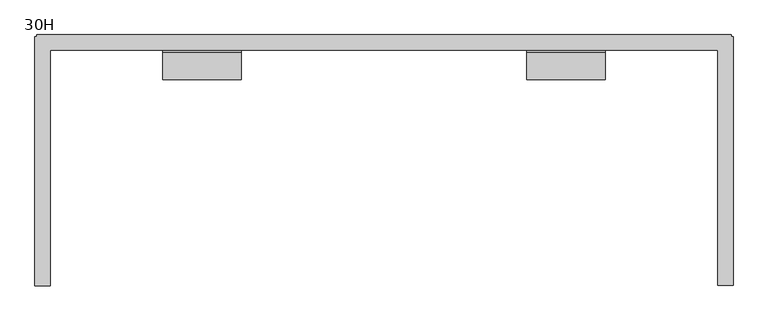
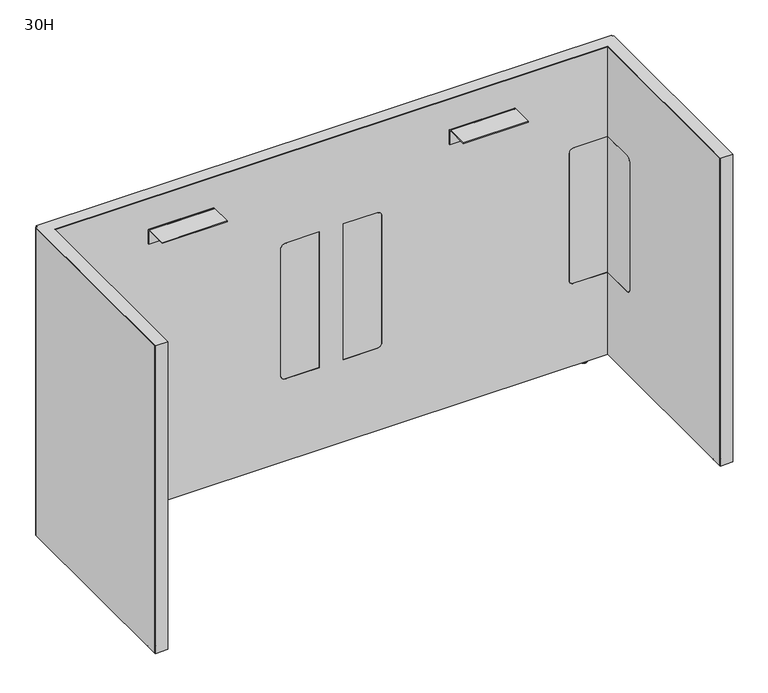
"""IFC4 building model written with IfcOpenShell, lengths in millimetres: furniture geometry, Steelcase - Answer Solution - Boundary Screen - L Return - Split : 30H."""

from ifc_helpers import new_model, si_unit, point, frame, frame_2d, origin, place, context, project, spatial, polyline, circle_curve, ellipse_curve, trimmed, segment, composite_curve, outline, extrude, faceted_brep, source, transform, mapped, element, save
from ifc_brep_helpers import plane_surface, cylinder_surface, revolved_surface, advanced_brep


def furniture_30h_5d8eaa44(model_context):
    return source(origin(), model_context, "Body", "SolidModel", [
        extrude(outline(composite_curve([segment(polyline([(-109.3501471, 549.6162029), (-29.0550397, 549.6162029), (-29.0550397, 213.7762137), (-109.3501471, 213.7762137)]), True, "CONTINUOUS"), segment(trimmed(circle_curve(frame_2d((-109.3501471, 223.9362137)), 10.16), [point((-109.3501471, 213.7762137))], [point((-119.5101471, 223.9362137))], False, "CARTESIAN"), True, "CONTINUOUS"), segment(polyline([(-119.5101471, 223.9362137), (-119.5101471, 539.4562029)]), True, "CONTINUOUS"), segment(trimmed(circle_curve(frame_2d((-109.3501471, 539.4562029)), 10.16), [point((-119.5101471, 539.4562029))], [point((-109.3501471, 549.6162029))], False, "CARTESIAN"), True, "CONTINUOUS")], self_intersect=False)), frame((-418.5209652, 0.0, 0.0), z_axis=(1.0, 0.0, 0.0), x_axis=(0.0, 1.0, 0.0)), (0.0, 0.0, 1.0), 0.6401544),
        extrude(outline(composite_curve([segment(polyline([(-109.3501471, 549.6162029), (-29.0550397, 549.6162029), (-29.0550397, 213.7762137), (-109.3501471, 213.7762137)]), True, "CONTINUOUS"), segment(trimmed(circle_curve(frame_2d((-109.3501471, 223.9362137)), 10.16), [point((-109.3501471, 213.7762137))], [point((-119.5101471, 223.9362137))], False, "CARTESIAN"), True, "CONTINUOUS"), segment(polyline([(-119.5101471, 223.9362137), (-119.5101471, 539.4562029)]), True, "CONTINUOUS"), segment(trimmed(circle_curve(frame_2d((-109.3501471, 539.4562029)), 10.16), [point((-119.5101471, 539.4562029))], [point((-109.3501471, 549.6162029))], False, "CARTESIAN"), True, "CONTINUOUS")], self_intersect=False)), frame((877.5191891, 0.0, 0.0), z_axis=(1.0, 0.0, 0.0), x_axis=(0.0, 1.0, 0.0)), (0.0, 0.0, 1.0), 0.6401544),
        advanced_brep(
        [(892.3672074, -448.0136072, 0.0), (899.3216144, -448.0136072, 0.0), (885.4128003, -448.0136072, 0.0), (900.7762685, -448.0136072, 1.2700001), (883.9581463, -448.0136072, 1.2700001), (900.7762685, -448.0136072, 2.9673238), (883.9581463, -448.0136072, 2.9673238), (901.7427877, -448.0136072, 2.9673238), (882.991627, -448.0136072, 2.9673238), (901.7427877, -448.0136072, 9.9059849), (882.991627, -448.0136072, 9.9059849), (892.3672074, -448.0136072, 9.9059849)],
        [
            (0, 1),
            (1, 2, circle_curve(frame((892.3672074, -448.0136072, 0.0), z_axis=(0.0, 0.0, -1.0), x_axis=(1.0, 0.0, 0.0)), 6.9544071)),
            (2, 0),
            (2, 1, circle_curve(frame((892.3672074, -448.0136072, 0.0), z_axis=(0.0, 0.0, -1.0), x_axis=(1.0, 0.0, 0.0)), 6.9544071)),
            (1, 3, circle_curve(frame((899.4945484, -448.0136072, 1.2700001), z_axis=(0.0, -1.0, 0.0), x_axis=(0.0, 0.0, 1.0)), 1.2817201)),
            (3, 4, circle_curve(frame((892.3672074, -448.0136072, 1.2700001), z_axis=(0.0, 0.0, -1.0), x_axis=(1.0, 0.0, 0.0)), 8.4090611)),
            (4, 2, circle_curve(frame((885.2398663, -448.0136072, 1.2700001), z_axis=(0.0, -1.0, 0.0), x_axis=(0.0, 0.0, 1.0)), 1.2817201)),
            (4, 3, circle_curve(frame((892.3672074, -448.0136072, 1.2700001), z_axis=(0.0, 0.0, -1.0), x_axis=(1.0, 0.0, 0.0)), 8.4090611)),
            (3, 5),
            (5, 6, circle_curve(frame((892.3672074, -448.0136072, 2.9673238), z_axis=(0.0, 0.0, -1.0), x_axis=(1.0, 0.0, 0.0)), 8.4090611)),
            (6, 4),
            (6, 5, circle_curve(frame((892.3672074, -448.0136072, 2.9673238), z_axis=(0.0, 0.0, -1.0), x_axis=(1.0, 0.0, 0.0)), 8.4090611)),
            (5, 7),
            (7, 8, circle_curve(frame((892.3672074, -448.0136072, 2.9673238), z_axis=(0.0, 0.0, -1.0), x_axis=(1.0, 0.0, 0.0)), 9.3755804)),
            (8, 6),
            (8, 7, circle_curve(frame((892.3672074, -448.0136072, 2.9673238), z_axis=(0.0, 0.0, -1.0), x_axis=(1.0, 0.0, 0.0)), 9.3755804)),
            (7, 9),
            (9, 10, circle_curve(frame((892.3672074, -448.0136072, 9.9059849), z_axis=(0.0, 0.0, -1.0), x_axis=(1.0, 0.0, 0.0)), 9.3755804)),
            (10, 8),
            (10, 9, circle_curve(frame((892.3672074, -448.0136072, 9.9059849), z_axis=(0.0, 0.0, -1.0), x_axis=(1.0, 0.0, 0.0)), 9.3755804)),
            (9, 11),
            (11, 10),
        ],
        [
            plane_surface(frame((892.3672074, -448.0136072, 0.0), z_axis=(0.0, 0.0, -1.0), x_axis=(1.0, 0.0, 0.0))),
            revolved_surface(trimmed(ellipse_curve(frame((899.4945484, -448.0136072, 1.2700001), z_axis=(0.0, 1.0, 0.0), x_axis=(0.0, 0.0, 1.0)), 1.2817201, 1.2817201), [point((900.7762685, -448.0136072, 1.2700001))], [point((899.3216144, -448.0136072, 0.0))], True, "CARTESIAN"), (892.3672074, -448.0136072, 9.9059849), (0.0, 0.0, -1.0)),
            cylinder_surface(frame((892.3672074, -448.0136072, 9.9059849), z_axis=(0.0, 0.0, -1.0), x_axis=(1.0, 0.0, 0.0)), 8.4090611),
            plane_surface(frame((892.3672074, -448.0136072, 2.9673238), z_axis=(0.0, 0.0, -1.0), x_axis=(1.0, 0.0, 0.0))),
            cylinder_surface(frame((892.3672074, -448.0136072, 9.9059849), z_axis=(0.0, 0.0, -1.0), x_axis=(1.0, 0.0, 0.0)), 9.3755804),
            plane_surface(frame((892.3672074, -448.0136072, 9.9059849), z_axis=(0.0, 0.0, 1.0), x_axis=(1.0, 0.0, 0.0))),
        ],
        [
            (0, [[1, 2, 3]]),
            (0, [[-3, 4, -1]]),
            (1, [[-2, 5, 6, 7]]),
            (1, [[-4, -7, 8, -5]]),
            (2, [[-6, 9, 10, 11]]),
            (2, [[-8, -11, 12, -9]]),
            (3, [[-10, 13, 14, 15]]),
            (3, [[-12, -15, 16, -13]]),
            (4, [[-14, 17, 18, 19]]),
            (4, [[-16, -19, 20, -17]]),
            (5, [[-18, 21, 22]]),
            (5, [[-20, -22, -21]]),
        ],
    ),
        advanced_brep(
        [(-425.774422, -449.0042444, 0.0), (-439.6832361, -449.0042444, 0.0), (-432.7288291, -449.0042444, 0.0), (-424.319768, -449.0042444, 1.2700001), (-441.1378902, -449.0042444, 1.2700001), (-424.319768, -449.0042444, 2.9673238), (-441.1378902, -449.0042444, 2.9673238), (-423.3532487, -449.0042444, 2.9673238), (-442.1044095, -449.0042444, 2.9673238), (-423.3532487, -449.0042444, 9.9059849), (-442.1044095, -449.0042444, 9.9059849), (-432.7288291, -449.0042444, 9.9059849)],
        [
            (0, 1, circle_curve(frame((-432.7288291, -449.0042444, 0.0), z_axis=(0.0, 0.0, -1.0), x_axis=(-1.0, 0.0, 0.0)), 6.9544071)),
            (1, 2),
            (2, 0),
            (1, 0, circle_curve(frame((-432.7288291, -449.0042444, 0.0), z_axis=(0.0, 0.0, -1.0), x_axis=(-1.0, 0.0, 0.0)), 6.9544071)),
            (3, 4, circle_curve(frame((-432.7288291, -449.0042444, 1.2700001), z_axis=(0.0, 0.0, -1.0), x_axis=(-1.0, 0.0, 0.0)), 8.4090611)),
            (4, 1, circle_curve(frame((-439.8561701, -449.0042444, 1.2700001), z_axis=(0.0, -1.0, 0.0), x_axis=(0.0, 0.0, 1.0)), 1.2817201)),
            (0, 3, circle_curve(frame((-425.6014881, -449.0042444, 1.2700001), z_axis=(0.0, -1.0, 0.0), x_axis=(0.0, 0.0, 1.0)), 1.2817201)),
            (4, 3, circle_curve(frame((-432.7288291, -449.0042444, 1.2700001), z_axis=(0.0, 0.0, -1.0), x_axis=(-1.0, 0.0, 0.0)), 8.4090611)),
            (5, 6, circle_curve(frame((-432.7288291, -449.0042444, 2.9673238), z_axis=(0.0, 0.0, -1.0), x_axis=(-1.0, 0.0, 0.0)), 8.4090611)),
            (6, 4),
            (3, 5),
            (6, 5, circle_curve(frame((-432.7288291, -449.0042444, 2.9673238), z_axis=(0.0, 0.0, -1.0), x_axis=(-1.0, 0.0, 0.0)), 8.4090611)),
            (7, 8, circle_curve(frame((-432.7288291, -449.0042444, 2.9673238), z_axis=(0.0, 0.0, -1.0), x_axis=(-1.0, 0.0, 0.0)), 9.3755804)),
            (8, 6),
            (5, 7),
            (8, 7, circle_curve(frame((-432.7288291, -449.0042444, 2.9673238), z_axis=(0.0, 0.0, -1.0), x_axis=(-1.0, 0.0, 0.0)), 9.3755804)),
            (9, 10, circle_curve(frame((-432.7288291, -449.0042444, 9.9059849), z_axis=(0.0, 0.0, -1.0), x_axis=(-1.0, 0.0, 0.0)), 9.3755804)),
            (10, 8),
            (7, 9),
            (10, 9, circle_curve(frame((-432.7288291, -449.0042444, 9.9059849), z_axis=(0.0, 0.0, -1.0), x_axis=(-1.0, 0.0, 0.0)), 9.3755804)),
            (11, 10),
            (9, 11),
        ],
        [
            plane_surface(frame((-432.7288291, -449.0042444, 0.0), z_axis=(0.0, 0.0, -1.0), x_axis=(-1.0, 0.0, 0.0))),
            revolved_surface(trimmed(ellipse_curve(frame((-439.8561701, -449.0042444, 1.2700001), z_axis=(0.0, 1.0, 0.0), x_axis=(0.0, 0.0, 1.0)), 1.2817201, 1.2817201), [point((-439.6832361, -449.0042444, 0.0))], [point((-441.1378902, -449.0042444, 1.2700001))], True, "CARTESIAN"), (-432.7288291, -449.0042444, 9.9059849), (0.0, 0.0, 1.0)),
            cylinder_surface(frame((-432.7288291, -449.0042444, 9.9059849), z_axis=(0.0, 0.0, 1.0), x_axis=(-1.0, 0.0, 0.0)), 8.4090611),
            plane_surface(frame((-432.7288291, -449.0042444, 2.9673238), z_axis=(0.0, 0.0, -1.0), x_axis=(-1.0, 0.0, 0.0))),
            cylinder_surface(frame((-432.7288291, -449.0042444, 9.9059849), z_axis=(0.0, 0.0, 1.0), x_axis=(-1.0, 0.0, 0.0)), 9.3755804),
            plane_surface(frame((-432.7288291, -449.0042444, 9.9059849), z_axis=(0.0, 0.0, 1.0), x_axis=(-1.0, 0.0, 0.0))),
        ],
        [
            (0, [[1, 2, 3]]),
            (0, [[4, -3, -2]]),
            (1, [[5, 6, -1, 7]]),
            (1, [[8, -7, -4, -6]]),
            (2, [[9, 10, -5, 11]]),
            (2, [[12, -11, -8, -10]]),
            (3, [[13, 14, -9, 15]]),
            (3, [[16, -15, -12, -14]]),
            (4, [[17, 18, -13, 19]]),
            (4, [[20, -19, -16, -18]]),
            (5, [[21, -17, 22]]),
            (5, [[-22, -20, -21]]),
        ],
    ),
        faceted_brep([(903.9531179, 0.0, 772.922), (903.9531179, 0.0, 9.9059849), (902.9621491, 0.0, 9.9059849), (902.9621491, 0.0, 771.942118), (-443.3237709, 0.0, 771.942118), (-443.3237709, 0.0, 9.9059849), (-444.3147397, 0.0, 9.9059849), (-444.3147397, 0.0, 772.922), (-444.3147397, -29.6898332, 9.9059849), (-443.3237709, -29.6898332, 9.9059849), (-443.3237709, -29.6898332, 771.942118), (-444.3147397, -29.6898332, 771.942118), (902.9621491, -29.6898332, 771.942118), (902.9621491, -29.6898332, 9.9059849), (903.9531179, -29.6898332, 9.9059849), (903.9531179, -29.6898332, 771.942118), (-417.8808109, -29.6898332, 772.922), (-417.8808109, -29.6898332, 771.942118), (877.5191891, -29.6898332, 771.942118), (877.5191891, -29.6898332, 772.922), (903.9531179, -3.2625916, 772.922), (903.9531179, -3.2625916, 9.9059849), (903.9531179, -4.252647, 9.9059849), (903.9531179, -4.252647, 771.942118), (907.2152256, -3.2625916, 9.9059849), (907.2152256, -4.252647, 9.9059849), (902.9621491, -4.252647, 9.9059849), (877.5191891, -4.252647, 9.9059849), (877.5191891, -3.2625916, 9.9059849), (902.9621491, -3.2625916, 9.9059849), (-444.3147397, -3.2625916, 9.9059849), (-444.3147397, -3.2625916, 772.922), (-444.3147397, -4.252647, 771.942118), (-444.3147397, -4.252647, 9.9059849), (-447.5768473, -3.2625916, 772.922), (-447.5768473, -487.8804704, 772.922), (-417.8808109, -487.8804704, 772.922), (877.5191891, -486.8898332, 772.922), (907.2152256, -486.8898332, 772.922), (907.2152256, -3.2625916, 772.922), (902.9621491, -3.2625916, 771.942118), (902.9621491, -4.252647, 771.942118), (877.5191891, -3.2625916, 771.942118), (877.5191891, -4.252647, 771.942118), (907.2152256, -4.252647, 771.942118), (907.2152256, -485.899196, 771.942118), (877.5191891, -485.899196, 771.942118), (-417.8808109, -486.8898332, 771.942118), (-447.5768473, -486.8898332, 771.942118), (-447.5768473, -4.252647, 771.942118), (-443.3237709, -4.252647, 771.942118), (-417.8808109, -4.252647, 771.942118), (-417.8808109, -3.2625916, 771.942118), (-443.3237709, -3.2625916, 771.942118), (-443.3237709, -3.2625916, 9.9059849), (-443.3237709, -4.252647, 9.9059849), (-417.8808109, -3.2625916, 9.9059849), (-417.8808109, -4.252647, 9.9059849), (-447.5768473, -4.252647, 9.9059849), (-447.5768473, -3.2625916, 9.9059849), (-417.8808109, -487.8804704, 9.9059849), (-417.8808109, -486.8898332, 9.9059849), (-447.5768473, -486.8898332, 9.9059849), (-447.5768473, -487.8804704, 9.9059849), (877.5191891, -485.899196, 9.9059849), (877.5191891, -486.8898332, 9.9059849), (907.2152256, -486.8898332, 9.9059849), (907.2152256, -485.899196, 9.9059849)], [[[0, 1, 2, 3, 4, 5, 6, 7]], [[8, 9, 10, 11]], [[12, 13, 14, 15]], [[16, 17, 18, 19]], [[1, 0, 20, 21]], [[15, 14, 22, 23]], [[2, 1, 21, 24, 25, 22, 14, 13, 26, 27, 28, 29]], [[7, 6, 30, 31]], [[8, 11, 32, 33]], [[0, 7, 31, 34, 35, 36, 16, 19, 37, 38, 39, 20]], [[3, 2, 29, 40]], [[13, 12, 41, 26]], [[4, 3, 40, 42, 43, 41, 12, 15, 23, 44, 45, 46, 18, 17, 47, 48, 49, 32, 11, 10, 50, 51, 52, 53]], [[5, 4, 53, 54]], [[10, 9, 55, 50]], [[6, 5, 54, 56, 57, 55, 9, 8, 33, 58, 59, 30]], [[36, 60, 61, 47, 17, 16]], [[51, 57, 56, 52]], [[35, 34, 59, 58, 49, 48, 62, 63]], [[56, 54, 53, 52]], [[59, 34, 31, 30]], [[57, 51, 50, 55]], [[49, 58, 33, 32]], [[47, 61, 62, 48]], [[61, 60, 63, 62]], [[60, 36, 35, 63]], [[28, 27, 43, 42]], [[46, 64, 65, 37, 19, 18]], [[38, 66, 67, 45, 44, 25, 24, 39]], [[29, 28, 42, 40]], [[39, 24, 21, 20]], [[43, 27, 26, 41]], [[25, 44, 23, 22]], [[64, 46, 45, 67]], [[65, 64, 67, 66]], [[37, 65, 66, 38]]]),
        advanced_brep(
        [(-370.386307, -14.8449166, 9.9059849), (-370.386307, -5.9309607, 9.9059849), (-370.386307, -23.7588726, 9.9059849), (-370.386307, -5.9309607, 2.9673238), (-370.386307, -23.7588726, 2.9673238), (-370.386307, -6.8982978, 2.9673238), (-370.386307, -22.7915354, 2.9673238), (-370.386307, -6.8982978, 1.6569081), (-370.386307, -22.7915354, 1.6569081), (-370.386307, -8.5552059, 0.0), (-370.386307, -21.1346274, 0.0), (-370.386307, -14.8449166, 0.0)],
        [
            (0, 1),
            (1, 2, circle_curve(frame((-370.386307, -14.8449166, 9.9059849), z_axis=(0.0, 0.0, 1.0), x_axis=(0.0, 1.0, 0.0)), 8.913956)),
            (2, 0),
            (2, 1, circle_curve(frame((-370.386307, -14.8449166, 9.9059849), z_axis=(0.0, 0.0, 1.0), x_axis=(0.0, 1.0, 0.0)), 8.913956)),
            (1, 3),
            (3, 4, circle_curve(frame((-370.386307, -14.8449166, 2.9673238), z_axis=(0.0, 0.0, 1.0), x_axis=(0.0, 1.0, 0.0)), 8.913956)),
            (4, 2),
            (4, 3, circle_curve(frame((-370.386307, -14.8449166, 2.9673238), z_axis=(0.0, 0.0, 1.0), x_axis=(0.0, 1.0, 0.0)), 8.913956)),
            (3, 5),
            (5, 6, circle_curve(frame((-370.386307, -14.8449166, 2.9673238), z_axis=(0.0, 0.0, 1.0), x_axis=(0.0, 1.0, 0.0)), 7.9466188)),
            (6, 4),
            (6, 5, circle_curve(frame((-370.386307, -14.8449166, 2.9673238), z_axis=(0.0, 0.0, 1.0), x_axis=(0.0, 1.0, 0.0)), 7.9466188)),
            (5, 7),
            (7, 8, circle_curve(frame((-370.386307, -14.8449166, 1.6569081), z_axis=(0.0, 0.0, 1.0), x_axis=(0.0, 1.0, 0.0)), 7.9466188)),
            (8, 6),
            (8, 7, circle_curve(frame((-370.386307, -14.8449166, 1.6569081), z_axis=(0.0, 0.0, 1.0), x_axis=(0.0, 1.0, 0.0)), 7.9466188)),
            (7, 9, circle_curve(frame((-370.386307, -8.5552059, 1.6569081), z_axis=(-1.0, 0.0, 0.0), x_axis=(0.0, 1.0, 0.0)), 1.6569081)),
            (9, 10, circle_curve(frame((-370.386307, -14.8449166, 0.0), z_axis=(0.0, 0.0, 1.0), x_axis=(0.0, 1.0, 0.0)), 6.2897107)),
            (10, 8, circle_curve(frame((-370.386307, -21.1346274, 1.6569081), z_axis=(-1.0, 0.0, 0.0), x_axis=(0.0, -1.0, 0.0)), 1.6569081)),
            (10, 9, circle_curve(frame((-370.386307, -14.8449166, 0.0), z_axis=(0.0, 0.0, 1.0), x_axis=(0.0, 1.0, 0.0)), 6.2897107)),
            (9, 11),
            (11, 10),
        ],
        [
            plane_surface(frame((-370.386307, -14.8449166, 9.9059849), z_axis=(0.0, 0.0, 1.0), x_axis=(0.0, 1.0, 0.0))),
            cylinder_surface(frame((-370.386307, -14.8449166, 9.9059849), z_axis=(0.0, 0.0, 1.0), x_axis=(0.0, 1.0, 0.0)), 8.913956),
            plane_surface(frame((-370.386307, -14.8449166, 2.9673238), z_axis=(0.0, 0.0, -1.0), x_axis=(0.0, 1.0, 0.0))),
            cylinder_surface(frame((-370.386307, -14.8449166, 9.9059849), z_axis=(0.0, 0.0, 1.0), x_axis=(0.0, 1.0, 0.0)), 7.9466188),
            revolved_surface(trimmed(ellipse_curve(frame((-370.386307, -8.5552059, 1.6569081), z_axis=(1.0, 0.0, 0.0), x_axis=(0.0, 1.0, 0.0)), 1.6569081, 1.6569081), [point((-370.386307, -8.5552059, 0.0))], [point((-370.386307, -6.8982978, 1.6569081))], True, "CARTESIAN"), (-370.386307, -14.8449166, 9.9059849), (0.0, 0.0, 1.0)),
            plane_surface(frame((-370.386307, -14.8449166, 0.0), z_axis=(0.0, 0.0, -1.0), x_axis=(0.0, 1.0, 0.0))),
        ],
        [
            (0, [[1, 2, 3]]),
            (0, [[-3, 4, -1]]),
            (1, [[-2, 5, 6, 7]]),
            (1, [[-4, -7, 8, -5]]),
            (2, [[-6, 9, 10, 11]]),
            (2, [[-8, -11, 12, -9]]),
            (3, [[-10, 13, 14, 15]]),
            (3, [[-12, -15, 16, -13]]),
            (4, [[-14, 17, 18, 19]]),
            (4, [[-16, -19, 20, -17]]),
            (5, [[-18, 21, 22]]),
            (5, [[-20, -22, -21]]),
        ],
    ),
        extrude(outline(composite_curve([segment(polyline([(-86.8398151, 696.4680019), (-86.8398151, 698.5), (-34.9450855, 698.5)]), True, "CONTINUOUS"), segment(trimmed(circle_curve(frame_2d((-34.9450855, 693.2447477)), 5.2552523), [point((-34.9450855, 698.5))], [point((-29.6898332, 693.2447477))], False, "CARTESIAN"), True, "CONTINUOUS"), segment(polyline([(-29.6898332, 693.2447477), (-29.6898332, 660.4), (-31.7218162, 660.4), (-31.7218162, 693.0058743)]), True, "CONTINUOUS"), segment(trimmed(circle_curve(frame_2d((-35.1839438, 693.0058743)), 3.4621276), [point((-31.7218162, 693.0058743))], [point((-35.1839438, 696.4680019))], True, "CARTESIAN"), True, "CONTINUOUS"), segment(polyline([(-35.1839438, 696.4680019), (-86.8398151, 696.4680019)]), True, "CONTINUOUS")], self_intersect=False)), frame((506.4762371, 0.0, 0.0), z_axis=(1.0, 0.0, 0.0), x_axis=(0.0, 1.0, 0.0)), (0.0, 0.0, 1.0), 152.4000969),
        extrude(outline(composite_curve([segment(polyline([(-86.8398151, 696.4680019), (-86.8398151, 698.5), (-34.9450855, 698.5)]), True, "CONTINUOUS"), segment(trimmed(circle_curve(frame_2d((-34.9450855, 693.2447477)), 5.2552523), [point((-34.9450855, 698.5))], [point((-29.6898332, 693.2447477))], False, "CARTESIAN"), True, "CONTINUOUS"), segment(polyline([(-29.6898332, 693.2447477), (-29.6898332, 660.4), (-31.7218162, 660.4), (-31.7218162, 693.0058743)]), True, "CONTINUOUS"), segment(trimmed(circle_curve(frame_2d((-35.1839438, 693.0058743)), 3.4621276), [point((-31.7218162, 693.0058743))], [point((-35.1839438, 696.4680019))], True, "CARTESIAN"), True, "CONTINUOUS"), segment(polyline([(-35.1839438, 696.4680019), (-86.8398151, 696.4680019)]), True, "CONTINUOUS")], self_intersect=False)), frame((-199.2364763, 0.0, 0.0), z_axis=(1.0, 0.0, 0.0), x_axis=(0.0, 1.0, 0.0)), (0.0, 0.0, 1.0), 152.4000969),
        advanced_brep(
        [(830.0246853, -23.7588726, 9.9059849), (830.0246853, -5.9309607, 9.9059849), (830.0246853, -14.8449166, 9.9059849), (830.0246853, -23.7588726, 2.9673238), (830.0246853, -5.9309607, 2.9673238), (830.0246853, -22.7915354, 2.9673238), (830.0246853, -6.8982978, 2.9673238), (830.0246853, -22.7915354, 1.6569081), (830.0246853, -6.8982978, 1.6569081), (830.0246853, -21.1346274, 0.0), (830.0246853, -8.5552059, 0.0), (830.0246853, -14.8449166, 0.0)],
        [
            (0, 1, circle_curve(frame((830.0246853, -14.8449166, 9.9059849), z_axis=(0.0, 0.0, 1.0), x_axis=(0.0, 1.0, 0.0)), 8.913956)),
            (1, 2),
            (2, 0),
            (1, 0, circle_curve(frame((830.0246853, -14.8449166, 9.9059849), z_axis=(0.0, 0.0, 1.0), x_axis=(0.0, 1.0, 0.0)), 8.913956)),
            (3, 4, circle_curve(frame((830.0246853, -14.8449166, 2.9673238), z_axis=(0.0, 0.0, 1.0), x_axis=(0.0, 1.0, 0.0)), 8.913956)),
            (4, 1),
            (0, 3),
            (4, 3, circle_curve(frame((830.0246853, -14.8449166, 2.9673238), z_axis=(0.0, 0.0, 1.0), x_axis=(0.0, 1.0, 0.0)), 8.913956)),
            (5, 6, circle_curve(frame((830.0246853, -14.8449166, 2.9673238), z_axis=(0.0, 0.0, 1.0), x_axis=(0.0, 1.0, 0.0)), 7.9466188)),
            (6, 4),
            (3, 5),
            (6, 5, circle_curve(frame((830.0246853, -14.8449166, 2.9673238), z_axis=(0.0, 0.0, 1.0), x_axis=(0.0, 1.0, 0.0)), 7.9466188)),
            (7, 8, circle_curve(frame((830.0246853, -14.8449166, 1.6569081), z_axis=(0.0, 0.0, 1.0), x_axis=(0.0, 1.0, 0.0)), 7.9466188)),
            (8, 6),
            (5, 7),
            (8, 7, circle_curve(frame((830.0246853, -14.8449166, 1.6569081), z_axis=(0.0, 0.0, 1.0), x_axis=(0.0, 1.0, 0.0)), 7.9466188)),
            (9, 10, circle_curve(frame((830.0246853, -14.8449166, 0.0), z_axis=(0.0, 0.0, 1.0), x_axis=(0.0, 1.0, 0.0)), 6.2897107)),
            (10, 8, circle_curve(frame((830.0246853, -8.5552059, 1.6569081), z_axis=(1.0, 0.0, 0.0), x_axis=(0.0, 1.0, 0.0)), 1.6569081)),
            (7, 9, circle_curve(frame((830.0246853, -21.1346274, 1.6569081), z_axis=(1.0, 0.0, 0.0), x_axis=(0.0, -1.0, 0.0)), 1.6569081)),
            (10, 9, circle_curve(frame((830.0246853, -14.8449166, 0.0), z_axis=(0.0, 0.0, 1.0), x_axis=(0.0, 1.0, 0.0)), 6.2897107)),
            (11, 10),
            (9, 11),
        ],
        [
            plane_surface(frame((830.0246853, -14.8449166, 9.9059849), z_axis=(0.0, 0.0, 1.0), x_axis=(0.0, 1.0, 0.0))),
            cylinder_surface(frame((830.0246853, -14.8449166, 9.9059849), z_axis=(0.0, 0.0, -1.0), x_axis=(0.0, 1.0, 0.0)), 8.913956),
            plane_surface(frame((830.0246853, -14.8449166, 2.9673238), z_axis=(0.0, 0.0, -1.0), x_axis=(0.0, 1.0, 0.0))),
            cylinder_surface(frame((830.0246853, -14.8449166, 9.9059849), z_axis=(0.0, 0.0, -1.0), x_axis=(0.0, 1.0, 0.0)), 7.9466188),
            revolved_surface(trimmed(ellipse_curve(frame((830.0246853, -8.5552059, 1.6569081), z_axis=(-1.0, 0.0, 0.0), x_axis=(0.0, 1.0, 0.0)), 1.6569081, 1.6569081), [point((830.0246853, -6.8982978, 1.6569081))], [point((830.0246853, -8.5552059, 0.0))], True, "CARTESIAN"), (830.0246853, -14.8449166, 9.9059849), (0.0, 0.0, -1.0)),
            plane_surface(frame((830.0246853, -14.8449166, 0.0), z_axis=(0.0, 0.0, -1.0), x_axis=(0.0, 1.0, 0.0))),
        ],
        [
            (0, [[1, 2, 3]]),
            (0, [[4, -3, -2]]),
            (1, [[5, 6, -1, 7]]),
            (1, [[8, -7, -4, -6]]),
            (2, [[9, 10, -5, 11]]),
            (2, [[12, -11, -8, -10]]),
            (3, [[13, 14, -9, 15]]),
            (3, [[16, -15, -12, -14]]),
            (4, [[17, 18, -13, 19]]),
            (4, [[20, -19, -16, -18]]),
            (5, [[21, -17, 22]]),
            (5, [[-22, -20, -21]]),
        ],
    ),
        advanced_brep(
        [(-443.3237709, 0.0, 771.942118), (902.9621491, 0.0, 771.942118), (902.9621491, 0.0, 9.9059849), (-443.3237709, 0.0, 9.9059849), (201.5038947, -29.0550397, 549.6162029), (121.849997, -29.0550397, 549.6162029), (111.689997, -29.0550397, 539.4562029), (111.689997, -29.0550397, 223.9362137), (121.849997, -29.0550397, 213.7762137), (201.5038947, -29.0550397, 213.7762137), (347.9483813, -29.0550397, 539.4562029), (337.7883813, -29.0550397, 549.6162029), (258.1344836, -29.0550397, 549.6162029), (258.1344836, -29.0550397, 213.7762137), (337.7883813, -29.0550397, 213.7762137), (347.9483813, -29.0550397, 223.9362137), (-418.5209652, -29.0550397, 549.6162029), (-418.5209652, -29.0550397, 213.7762137), (-337.9725485, -29.0550397, 213.7762137), (-327.8125485, -29.0550397, 223.9362137), (-327.8125485, -29.0550397, 539.4562029), (-337.9725485, -29.0550397, 549.6162029), (878.1593435, -29.0550397, 213.7762137), (878.1593435, -29.0550397, 549.6162029), (797.6109268, -29.0550397, 549.6162029), (787.4509268, -29.0550397, 539.4562029), (787.4509268, -29.0550397, 223.9362137), (797.6109268, -29.0550397, 213.7762137), (-417.8808109, -486.8898332, 771.942118), (-417.8808109, -486.8898332, 9.9059849), (-417.8808109, -29.6898332, 9.9059849), (-417.8808109, -29.6898332, 213.7762137), (-417.8808109, -109.3501471, 213.7762137), (-417.8808109, -119.5101471, 223.9362137), (-417.8808109, -119.5101471, 539.4562029), (-417.8808109, -109.3501471, 549.6162029), (-417.8808109, -29.6898332, 549.6162029), (-417.8808109, -29.6898332, 771.942118), (-447.5768473, -486.8898332, 771.942118), (-447.5768473, -4.252647, 771.942118), (-447.5768473, -4.252647, 9.9059849), (-447.5768473, -486.8898332, 9.9059849), (877.5191891, -29.6898332, 771.942118), (877.5191891, -485.899196, 771.942118), (907.2152256, -485.899196, 771.942118), (907.2152256, -4.252647, 771.942118), (902.9621491, -4.252647, 771.942118), (-443.3237709, -4.252647, 771.942118), (-443.3237709, -4.252647, 9.9059849), (902.9621491, -4.252647, 9.9059849), (907.2152256, -4.252647, 9.9059849), (907.2152256, -485.899196, 9.9059849), (877.5191891, -485.899196, 9.9059849), (877.5191891, -29.6898332, 9.9059849), (-418.5209652, -119.5101471, 539.4562029), (-418.5209652, -109.3501471, 549.6162029), (-418.5209652, -119.5101471, 223.9362137), (-418.5209652, -109.3501471, 213.7762137), (-337.9725485, -29.6898332, 213.7762137), (-337.9725485, -29.6898332, 549.6162029), (797.6109268, -29.6898332, 213.7762137), (787.4509268, -29.6898332, 223.9362137), (787.4509268, -29.6898332, 539.4562029), (797.6109268, -29.6898332, 549.6162029), (877.5191891, -29.6898332, 549.6162029), (-327.8125485, -29.6898332, 539.4562029), (-327.8125485, -29.6898332, 223.9362137), (877.5191891, -29.6898332, 213.7762137), (121.849997, -29.6898332, 549.6162029), (201.5038947, -29.6898332, 549.6162029), (201.5038947, -29.6898332, 213.7762137), (121.849997, -29.6898332, 213.7762137), (111.689997, -29.6898332, 223.9362137), (111.689997, -29.6898332, 539.4562029), (337.7883813, -29.6898332, 549.6162029), (347.9483813, -29.6898332, 539.4562029), (347.9483813, -29.6898332, 223.9362137), (337.7883813, -29.6898332, 213.7762137), (258.1344836, -29.6898332, 213.7762137), (258.1344836, -29.6898332, 549.6162029), (878.1593435, -109.3501471, 549.6162029), (877.5191891, -109.3501471, 549.6162029), (878.1593435, -109.3501471, 213.7762137), (878.1593435, -119.5101471, 223.9362137), (878.1593435, -119.5101471, 539.4562029), (877.5191891, -109.3501471, 213.7762137), (877.5191891, -119.5101471, 539.4562029), (877.5191891, -119.5101471, 223.9362137)],
        [
            (0, 1),
            (1, 2),
            (2, 3),
            (3, 0),
            (4, 5),
            (5, 6, circle_curve(frame((121.849997, -29.0550397, 539.4562029), z_axis=(0.0, -1.0, 0.0), x_axis=(0.0, 0.0, 1.0)), 10.16)),
            (6, 7),
            (7, 8, circle_curve(frame((121.849997, -29.0550397, 223.9362137), z_axis=(0.0, -1.0, 0.0), x_axis=(0.0, 0.0, 1.0)), 10.16)),
            (8, 9),
            (9, 4),
            (10, 11, circle_curve(frame((337.7883813, -29.0550397, 539.4562029), z_axis=(0.0, -1.0, 0.0), x_axis=(0.0, 0.0, 1.0)), 10.16)),
            (11, 12),
            (12, 13),
            (13, 14),
            (14, 15, circle_curve(frame((337.7883813, -29.0550397, 223.9362137), z_axis=(0.0, -1.0, 0.0), x_axis=(0.0, 0.0, 1.0)), 10.16)),
            (15, 10),
            (16, 17),
            (17, 18),
            (18, 19, circle_curve(frame((-337.9725485, -29.0550397, 223.9362137), z_axis=(0.0, -1.0, 0.0), x_axis=(0.0, 0.0, 1.0)), 10.16)),
            (19, 20),
            (20, 21, circle_curve(frame((-337.9725485, -29.0550397, 539.4562029), z_axis=(0.0, -1.0, 0.0), x_axis=(0.0, 0.0, 1.0)), 10.16)),
            (21, 16),
            (22, 23),
            (23, 24),
            (24, 25, circle_curve(frame((797.6109268, -29.0550397, 539.4562029), z_axis=(0.0, -1.0, 0.0), x_axis=(0.0, 0.0, 1.0)), 10.16)),
            (25, 26),
            (26, 27, circle_curve(frame((797.6109268, -29.0550397, 223.9362137), z_axis=(0.0, -1.0, 0.0), x_axis=(0.0, 0.0, 1.0)), 10.16)),
            (27, 22),
            (28, 29),
            (29, 30),
            (30, 31),
            (31, 32),
            (32, 33, circle_curve(frame((-417.8808109, -109.3501471, 223.9362137), z_axis=(-1.0, 0.0, 0.0), x_axis=(0.0, 1.0, 0.0)), 10.16)),
            (33, 34),
            (34, 35, circle_curve(frame((-417.8808109, -109.3501471, 539.4562029), z_axis=(-1.0, 0.0, 0.0), x_axis=(0.0, 1.0, 0.0)), 10.16)),
            (35, 36),
            (36, 37),
            (37, 28),
            (38, 39),
            (39, 40),
            (40, 41),
            (41, 38),
            (38, 28),
            (37, 42),
            (42, 43),
            (43, 44),
            (44, 45),
            (45, 46),
            (46, 1),
            (0, 47),
            (47, 39),
            (47, 48),
            (48, 40),
            (48, 3),
            (2, 49),
            (49, 50),
            (50, 51),
            (51, 52),
            (52, 53),
            (53, 30),
            (29, 41),
            (34, 54),
            (54, 55, circle_curve(frame((-418.5209652, -109.3501471, 539.4562029), z_axis=(-1.0, 0.0, 0.0), x_axis=(0.0, 1.0, 0.0)), 10.16)),
            (55, 35),
            (33, 56),
            (56, 54),
            (32, 57),
            (57, 56, circle_curve(frame((-418.5209652, -109.3501471, 223.9362137), z_axis=(-1.0, 0.0, 0.0), x_axis=(0.0, 1.0, 0.0)), 10.16)),
            (58, 18),
            (17, 57),
            (31, 58),
            (21, 59),
            (59, 36),
            (55, 16),
            (60, 61, circle_curve(frame((797.6109268, -29.6898332, 223.9362137), z_axis=(0.0, 1.0, 0.0), x_axis=(0.0, 0.0, 1.0)), 10.16)),
            (61, 62),
            (62, 63, circle_curve(frame((797.6109268, -29.6898332, 539.4562029), z_axis=(0.0, 1.0, 0.0), x_axis=(0.0, 0.0, 1.0)), 10.16)),
            (63, 64),
            (64, 42),
            (59, 65, circle_curve(frame((-337.9725485, -29.6898332, 539.4562029), z_axis=(0.0, 1.0, 0.0), x_axis=(0.0, 0.0, 1.0)), 10.16)),
            (65, 66),
            (66, 58, circle_curve(frame((-337.9725485, -29.6898332, 223.9362137), z_axis=(0.0, 1.0, 0.0), x_axis=(0.0, 0.0, 1.0)), 10.16)),
            (53, 67),
            (67, 60),
            (68, 69),
            (69, 70),
            (70, 71),
            (71, 72, circle_curve(frame((121.849997, -29.6898332, 223.9362137), z_axis=(0.0, 1.0, 0.0), x_axis=(0.0, 0.0, 1.0)), 10.16)),
            (72, 73),
            (73, 68, circle_curve(frame((121.849997, -29.6898332, 539.4562029), z_axis=(0.0, 1.0, 0.0), x_axis=(0.0, 0.0, 1.0)), 10.16)),
            (74, 75, circle_curve(frame((337.7883813, -29.6898332, 539.4562029), z_axis=(0.0, 1.0, 0.0), x_axis=(0.0, 0.0, 1.0)), 10.16)),
            (75, 76),
            (76, 77, circle_curve(frame((337.7883813, -29.6898332, 223.9362137), z_axis=(0.0, 1.0, 0.0), x_axis=(0.0, 0.0, 1.0)), 10.16)),
            (77, 78),
            (78, 79),
            (79, 74),
            (46, 49),
            (68, 5),
            (4, 69),
            (9, 70),
            (8, 71),
            (7, 72),
            (6, 73),
            (74, 11),
            (10, 75),
            (15, 76),
            (14, 77),
            (13, 78),
            (12, 79),
            (23, 80),
            (80, 81),
            (81, 64),
            (63, 24),
            (82, 83, circle_curve(frame((878.1593435, -109.3501471, 223.9362137), z_axis=(-1.0, 0.0, 0.0), x_axis=(0.0, 1.0, 0.0)), 10.16)),
            (83, 84),
            (84, 80, circle_curve(frame((878.1593435, -109.3501471, 539.4562029), z_axis=(-1.0, 0.0, 0.0), x_axis=(0.0, 1.0, 0.0)), 10.16)),
            (22, 82),
            (27, 60),
            (67, 85),
            (85, 82),
            (26, 61),
            (25, 62),
            (66, 19),
            (65, 20),
            (52, 43),
            (81, 86, circle_curve(frame((877.5191891, -109.3501471, 539.4562029), z_axis=(1.0, 0.0, 0.0), x_axis=(0.0, 1.0, 0.0)), 10.16)),
            (86, 87),
            (87, 85, circle_curve(frame((877.5191891, -109.3501471, 223.9362137), z_axis=(1.0, 0.0, 0.0), x_axis=(0.0, 1.0, 0.0)), 10.16)),
            (44, 51),
            (50, 45),
            (84, 86),
            (83, 87),
        ],
        [
            plane_surface(frame((347.9483813, 0.0, 549.6162029), z_axis=(0.0, 1.0, 0.0), x_axis=(0.0, 0.0, -1.0))),
            plane_surface(frame((347.9483813, -29.0550397, 549.6162029), z_axis=(0.0, -1.0, 0.0), x_axis=(0.0, 0.0, 1.0))),
            plane_surface(frame((-417.8808109, -4.252647, 771.942118), z_axis=(1.0, 0.0, 0.0), x_axis=(0.0, -1.0, 0.0))),
            plane_surface(frame((-447.5768473, -4.252647, 771.942118), z_axis=(-1.0, 0.0, 0.0), x_axis=(0.0, 1.0, 0.0))),
            plane_surface(frame((-447.5768473, -486.8898332, 771.942118), z_axis=(0.0, 0.0, 1.0), x_axis=(1.0, 0.0, 0.0))),
            plane_surface(frame((-447.5768473, -4.252647, 771.942118), z_axis=(0.0, 1.0, 0.0), x_axis=(1.0, 0.0, 0.0))),
            plane_surface(frame((-447.5768473, -4.252647, 9.9059849), z_axis=(0.0, 0.0, -1.0), x_axis=(1.0, 0.0, 0.0))),
            plane_surface(frame((-447.5768473, -486.8898332, 9.9059849), z_axis=(0.0, -1.0, 0.0), x_axis=(1.0, 0.0, 0.0))),
            revolved_surface(polyline([(-417.88081090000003, -99.1901471, 539.4562029), (-418.5209652, -99.1901471, 539.4562029)]), (830.0246853, -109.3501471, 539.4562029), (1.0, 0.0, 0.0)),
            plane_surface(frame((-447.5768473, -119.5101471, 539.4562029), z_axis=(0.0, 1.0, 0.0), x_axis=(1.0, 0.0, 0.0))),
            revolved_surface(polyline([(-417.88081090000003, -99.1901471, 223.9362137), (-418.5209652, -99.1901471, 223.9362137)]), (830.0246853, -109.3501471, 223.9362137), (1.0, 0.0, 0.0)),
            plane_surface(frame((-447.5768473, -109.3501471, 213.7762137), z_axis=(0.0, 0.0, 1.0), x_axis=(1.0, 0.0, 0.0))),
            plane_surface(frame((-447.5768473, -29.0550397, 549.6162029), z_axis=(0.0, 0.0, -1.0), x_axis=(1.0, 0.0, 0.0))),
            plane_surface(frame((902.9621491, -29.6898332, 771.942118), z_axis=(0.0, -1.0, 0.0), x_axis=(-1.0, 0.0, 0.0))),
            plane_surface(frame((-443.3237709, 0.0, 9.9059849), z_axis=(-1.0, 0.0, 0.0), x_axis=(0.0, -1.0, 0.0))),
            plane_surface(frame((902.9621491, 0.0, 771.942118), z_axis=(1.0, 0.0, 0.0), x_axis=(0.0, -1.0, 0.0))),
            plane_surface(frame((201.5038947, 0.0, 549.6162029), z_axis=(0.0, 0.0, -1.0), x_axis=(0.0, -1.0, 0.0))),
            plane_surface(frame((201.5038947, 0.0, 213.7762137), z_axis=(-1.0, 0.0, 0.0), x_axis=(0.0, -1.0, 0.0))),
            plane_surface(frame((121.849997, 0.0, 213.7762137), z_axis=(0.0, 0.0, 1.0), x_axis=(0.0, -1.0, 0.0))),
            revolved_surface(polyline([(121.849997, -29.6898332, 234.0962137), (121.849997, -29.0550397, 234.0962137)]), (121.849997, -29.6898332, 223.9362137), (0.0, -1.0, 0.0)),
            plane_surface(frame((111.689997, 0.0, 539.4562029), z_axis=(1.0, 0.0, 0.0), x_axis=(0.0, -1.0, 0.0))),
            revolved_surface(polyline([(121.849997, -29.6898332, 549.6162029), (121.849997, -29.0550397, 549.6162029)]), (121.849997, -29.6898332, 539.4562029), (0.0, -1.0, 0.0)),
            revolved_surface(polyline([(337.7883813, -29.6898332, 549.6162029), (337.7883813, -29.0550397, 549.6162029)]), (337.7883813, -29.6898332, 539.4562029), (0.0, -1.0, 0.0)),
            plane_surface(frame((347.9483813, 0.0, 223.9362137), z_axis=(-1.0, 0.0, 0.0), x_axis=(0.0, -1.0, 0.0))),
            revolved_surface(polyline([(337.7883813, -29.6898332, 234.0962137), (337.7883813, -29.0550397, 234.0962137)]), (337.7883813, -29.6898332, 223.9362137), (0.0, -1.0, 0.0)),
            plane_surface(frame((258.1344836, 0.0, 213.7762137), z_axis=(0.0, 0.0, 1.0), x_axis=(0.0, -1.0, 0.0))),
            plane_surface(frame((258.1344836, 0.0, 549.6162029), z_axis=(1.0, 0.0, 0.0), x_axis=(0.0, -1.0, 0.0))),
            plane_surface(frame((337.7883813, 0.0, 549.6162029), z_axis=(0.0, 0.0, -1.0), x_axis=(0.0, -1.0, 0.0))),
            plane_surface(frame((878.1593435, 0.0, 549.6162029), z_axis=(0.0, 0.0, -1.0), x_axis=(0.0, -1.0, 0.0))),
            plane_surface(frame((878.1593435, 0.0, 213.7762137), z_axis=(-1.0, 0.0, 0.0), x_axis=(0.0, -1.0, 0.0))),
            plane_surface(frame((797.6109268, 0.0, 213.7762137), z_axis=(0.0, 0.0, 1.0), x_axis=(0.0, -1.0, 0.0))),
            revolved_surface(polyline([(797.6109268, -29.6898332, 234.0962137), (797.6109268, -29.0550397, 234.0962137)]), (797.6109268, -29.6898332, 223.9362137), (0.0, -1.0, 0.0)),
            plane_surface(frame((787.4509268, 0.0, 539.4562029), z_axis=(1.0, 0.0, 0.0), x_axis=(0.0, -1.0, 0.0))),
            revolved_surface(polyline([(797.6109268, -29.6898332, 549.6162029), (797.6109268, -29.0550397, 549.6162029)]), (797.6109268, -29.6898332, 539.4562029), (0.0, -1.0, 0.0)),
            plane_surface(frame((-418.5209652, 0.0, 549.6162029), z_axis=(1.0, 0.0, 0.0), x_axis=(0.0, -1.0, 0.0))),
            revolved_surface(polyline([(-337.9725485, -29.6898332, 234.0962137), (-337.9725485, -29.0550397, 234.0962137)]), (-337.9725485, -29.6898332, 223.9362137), (0.0, -1.0, 0.0)),
            plane_surface(frame((-327.8125485, 0.0, 223.9362137), z_axis=(-1.0, 0.0, 0.0), x_axis=(0.0, -1.0, 0.0))),
            revolved_surface(polyline([(-337.9725485, -29.6898332, 549.6162029), (-337.9725485, -29.0550397, 549.6162029)]), (-337.9725485, -29.6898332, 539.4562029), (0.0, -1.0, 0.0)),
            plane_surface(frame((877.5191891, -485.899196, 771.942118), z_axis=(-1.0, 0.0, 0.0), x_axis=(0.0, 0.0, 1.0))),
            plane_surface(frame((907.2152256, -485.899196, 771.942118), z_axis=(1.0, 0.0, 0.0), x_axis=(0.0, 0.0, -1.0))),
            plane_surface(frame((907.2152256, -4.252647, 9.9059849), z_axis=(0.0, 1.0, 0.0), x_axis=(-1.0, 0.0, 0.0))),
            plane_surface(frame((907.2152256, -485.899196, 771.942118), z_axis=(0.0, -1.0, 0.0), x_axis=(-1.0, 0.0, 0.0))),
            revolved_surface(polyline([(877.5191891, -99.1901471, 539.4562029), (878.1593435, -99.1901471, 539.4562029)]), (-340.6902705, -109.3501471, 539.4562029), (-1.0, 0.0, 0.0)),
            plane_surface(frame((907.2152256, -119.5101471, 223.9362137), z_axis=(0.0, 1.0, 0.0), x_axis=(-1.0, 0.0, 0.0))),
            revolved_surface(polyline([(877.5191891, -99.1901471, 223.9362137), (878.1593435, -99.1901471, 223.9362137)]), (-340.6902705, -109.3501471, 223.9362137), (-1.0, 0.0, 0.0)),
        ],
        [
            (0, [[1, 2, 3, 4]]),
            (1, [[5, 6, 7, 8, 9, 10]]),
            (1, [[11, 12, 13, 14, 15, 16]]),
            (1, [[17, 18, 19, 20, 21, 22]]),
            (1, [[23, 24, 25, 26, 27, 28]]),
            (2, [[29, 30, 31, 32, 33, 34, 35, 36, 37, 38]]),
            (3, [[39, 40, 41, 42]]),
            (4, [[-39, 43, -38, 44, 45, 46, 47, 48, 49, -1, 50, 51]]),
            (5, [[-40, -51, 52, 53]]),
            (6, [[-41, -53, 54, -3, 55, 56, 57, 58, 59, 60, -30, 61]]),
            (7, [[-29, -43, -42, -61]]),
            (8, [[-35, 62, 63, 64]]),
            (9, [[-34, 65, 66, -62]]),
            (10, [[-33, 67, 68, -65]]),
            (11, [[69, -18, 70, -67, -32, 71]]),
            (12, [[72, 73, -36, -64, 74, -22]]),
            (13, [[75, 76, 77, 78, 79, -44, -37, -73, 80, 81, 82, -71, -31, -60, 83, 84], [85, 86, 87, 88, 89, 90], [91, 92, 93, 94, 95, 96]]),
            (14, [[-4, -54, -52, -50]]),
            (15, [[-2, -49, 97, -55]]),
            (16, [[-85, 98, -5, 99]]),
            (17, [[-86, -99, -10, 100]]),
            (18, [[-87, -100, -9, 101]]),
            (19, [[-88, -101, -8, 102]]),
            (20, [[-89, -102, -7, 103]]),
            (21, [[-90, -103, -6, -98]]),
            (22, [[-91, 104, -11, 105]]),
            (23, [[-92, -105, -16, 106]]),
            (24, [[-93, -106, -15, 107]]),
            (25, [[-94, -107, -14, 108]]),
            (26, [[-95, -108, -13, 109]]),
            (27, [[-96, -109, -12, -104]]),
            (28, [[110, 111, 112, -78, 113, -24]]),
            (29, [[114, 115, 116, -110, -23, 117]]),
            (30, [[-117, -28, 118, -84, 119, 120]]),
            (31, [[-75, -118, -27, 121]]),
            (32, [[-76, -121, -26, 122]]),
            (33, [[-77, -122, -25, -113]]),
            (34, [[-17, -74, -63, -66, -68, -70]]),
            (35, [[-82, 123, -19, -69]]),
            (36, [[-81, 124, -20, -123]]),
            (37, [[-80, -72, -21, -124]]),
            (38, [[125, -45, -79, -112, 126, 127, 128, -119, -83, -59]]),
            (39, [[129, -57, 130, -47]]),
            (40, [[-130, -56, -97, -48]]),
            (41, [[-125, -58, -129, -46]]),
            (42, [[-126, -111, -116, 131]]),
            (43, [[-127, -131, -115, 132]]),
            (44, [[-128, -132, -114, -120]]),
        ],
    ),
        extrude(outline(composite_curve([segment(polyline([(549.6162029, 337.7883813), (549.6162029, 258.1344836), (213.7762137, 258.1344836), (213.7762137, 337.7883813)]), True, "CONTINUOUS"), segment(trimmed(circle_curve(frame_2d((223.9362137, 337.7883813)), 10.16), [point((213.7762137, 337.7883813))], [point((223.9362137, 347.9483813))], False, "CARTESIAN"), True, "CONTINUOUS"), segment(polyline([(223.9362137, 347.9483813), (539.4562029, 347.9483813)]), True, "CONTINUOUS"), segment(trimmed(circle_curve(frame_2d((539.4562029, 337.7883813)), 10.16), [point((539.4562029, 347.9483813))], [point((549.6162029, 337.7883813))], False, "CARTESIAN"), True, "CONTINUOUS")], self_intersect=False)), frame((0.0, -29.6898332, 0.0), z_axis=(0.0, 1.0, 0.0), x_axis=(0.0, 0.0, 1.0)), (0.0, 0.0, 1.0), 0.6347935),
        extrude(outline(composite_curve([segment(trimmed(circle_curve(frame_2d((539.4562029, 121.849997)), 10.16), [point((549.6162029, 121.849997))], [point((539.4562029, 111.689997))], False, "CARTESIAN"), True, "CONTINUOUS"), segment(polyline([(539.4562029, 111.689997), (223.9362137, 111.689997)]), True, "CONTINUOUS"), segment(trimmed(circle_curve(frame_2d((223.9362137, 121.849997)), 10.16), [point((223.9362137, 111.689997))], [point((213.7762137, 121.849997))], False, "CARTESIAN"), True, "CONTINUOUS"), segment(polyline([(213.7762137, 121.849997), (213.7762137, 201.5038947), (549.6162029, 201.5038947), (549.6162029, 121.849997)]), True, "CONTINUOUS")], self_intersect=False)), frame((0.0, -29.6898332, 0.0), z_axis=(0.0, 1.0, 0.0), x_axis=(0.0, 0.0, 1.0)), (0.0, 0.0, 1.0), 0.6347935),
        extrude(outline(composite_curve([segment(trimmed(circle_curve(frame_2d((539.4562029, 797.6109268)), 10.16), [point((549.6162029, 797.6109268))], [point((539.4562029, 787.4509268))], False, "CARTESIAN"), True, "CONTINUOUS"), segment(polyline([(539.4562029, 787.4509268), (223.9362137, 787.4509268)]), True, "CONTINUOUS"), segment(trimmed(circle_curve(frame_2d((223.9362137, 797.6109268)), 10.16), [point((223.9362137, 787.4509268))], [point((213.7762137, 797.6109268))], False, "CARTESIAN"), True, "CONTINUOUS"), segment(polyline([(213.7762137, 797.6109268), (213.7762137, 877.5191891), (549.6162029, 877.5191891), (549.6162029, 797.6109268)]), True, "CONTINUOUS")], self_intersect=False)), frame((0.0, -29.6898332, 0.0), z_axis=(0.0, 1.0, 0.0), x_axis=(0.0, 0.0, 1.0)), (0.0, 0.0, 1.0), 0.6347935),
        extrude(outline(composite_curve([segment(polyline([(549.6162029, -337.9725485), (549.6162029, -417.8808109), (213.7762137, -417.8808109), (213.7762137, -337.9725485)]), True, "CONTINUOUS"), segment(trimmed(circle_curve(frame_2d((223.9362137, -337.9725485)), 10.16), [point((213.7762137, -337.9725485))], [point((223.9362137, -327.8125485))], False, "CARTESIAN"), True, "CONTINUOUS"), segment(polyline([(223.9362137, -327.8125485), (539.4562029, -327.8125485)]), True, "CONTINUOUS"), segment(trimmed(circle_curve(frame_2d((539.4562029, -337.9725485)), 10.16), [point((539.4562029, -327.8125485))], [point((549.6162029, -337.9725485))], False, "CARTESIAN"), True, "CONTINUOUS")], self_intersect=False)), frame((0.0, -29.6898332, 0.0), z_axis=(0.0, 1.0, 0.0), x_axis=(0.0, 0.0, 1.0)), (0.0, 0.0, 1.0), 0.6347935),
    ])


if __name__ == "__main__":
    model = new_model("IFC4")
    model_context = context("Model", 3, world=origin())
    ifc_project = project(units=[si_unit("LENGTHUNIT", "METRE", prefix="MILLI")], contexts=[model_context])
    site = spatial("IfcSite", under=ifc_project)
    building = spatial("IfcBuilding", under=site)
    placement = place(None, origin())
    furniture_30h_shape = furniture_30h_5d8eaa44(model_context)
    element("IfcFurniture", 1, ObjectType="Steelcase - Answer Solution - Boundary Screen - L Return - Split : 30H", at=placement, inside=building, context=model_context, shape_type="MappedRepresentation", body=[
        mapped(furniture_30h_shape, transform((0.0, 0.0, 0.0), x_axis=(1.0, 0.0, 0.0), y_axis=(0.0, 1.0, 0.0), z_axis=(0.0, 0.0, 1.0))),
    ])
    save(model, "model.ifc")
